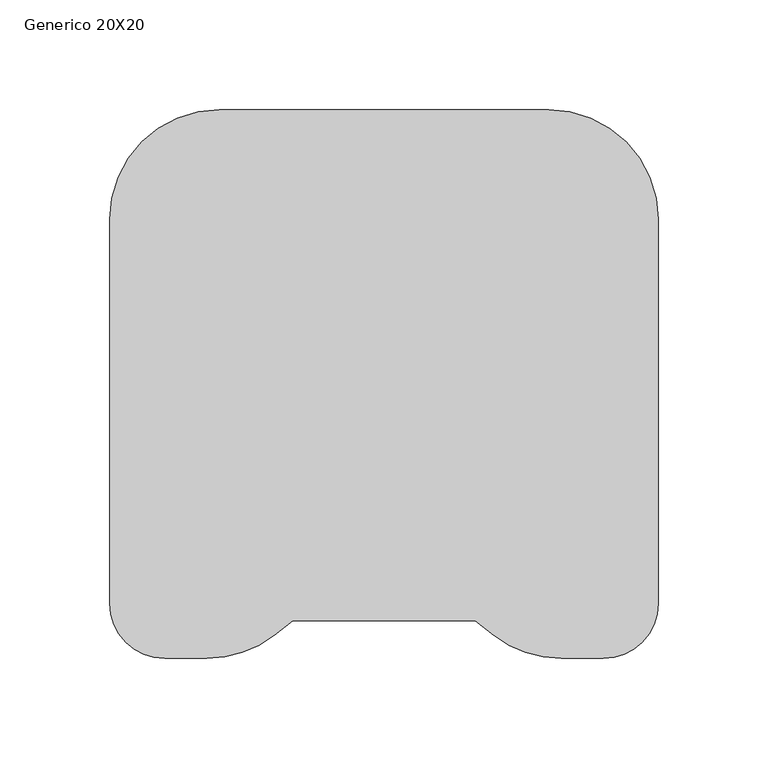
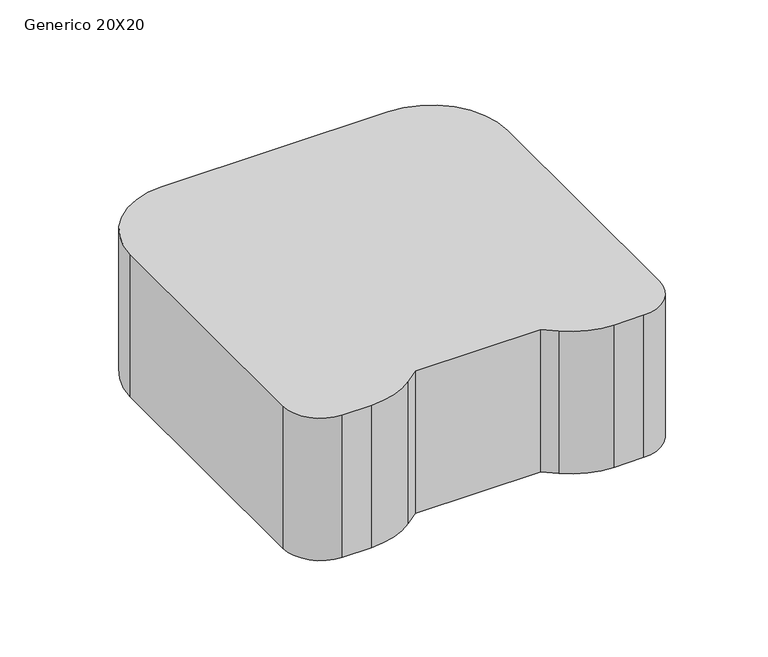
"""IFC4 building model written with IfcOpenShell, lengths in millimetres: furniture geometry, Secamanos : Generico 20X20."""

from ifc_helpers import new_model, si_unit, point, frame_2d, origin, origin_with_axes, place, context, project, spatial, polyline, circle_curve, trimmed, segment, composite_curve, outline, extrude, source, transform, mapped, element, save


def generico_20x20_ad66ac92(model_context):
    return source(origin(), model_context, "Body", "SweptSolid", [
        extrude(outline(composite_curve([segment(trimmed(circle_curve(frame_2d((75.0, 75.0)), 50.0), [point((75.0, 125.0))], [point((125.0, 75.0))], False, "CARTESIAN"), True, "CONTINUOUS"), segment(polyline([(125.0, 75.0), (125.0, -100.0)]), True, "CONTINUOUS"), segment(trimmed(circle_curve(frame_2d((100.0, -100.0)), 25.0), [point((125.0, -100.0))], [point((100.0, -125.0))], False, "CARTESIAN"), True, "CONTINUOUS"), segment(polyline([(100.0, -125.0), (80.716252, -125.0)]), True, "CONTINUOUS"), segment(trimmed(circle_curve(frame_2d((80.716252, -75.0)), 50.0), [point((80.716252, -125.0))], [point((50.0111459, -114.4613287))], False, "CARTESIAN"), True, "CONTINUOUS"), segment(polyline([(50.0111459, -114.4613287), (41.6666667, -107.9684373), (-41.6666667, -107.9684373), (-50.0111459, -114.4613287)]), True, "CONTINUOUS"), segment(trimmed(circle_curve(frame_2d((-80.716252, -75.0)), 50.0), [point((-50.0111459, -114.4613287))], [point((-80.716252, -125.0))], False, "CARTESIAN"), True, "CONTINUOUS"), segment(polyline([(-80.716252, -125.0), (-100.0, -125.0)]), True, "CONTINUOUS"), segment(trimmed(circle_curve(frame_2d((-100.0, -100.0)), 25.0), [point((-100.0, -125.0))], [point((-125.0, -100.0))], False, "CARTESIAN"), True, "CONTINUOUS"), segment(polyline([(-125.0, -100.0), (-125.0, 75.0)]), True, "CONTINUOUS"), segment(trimmed(circle_curve(frame_2d((-75.0, 75.0)), 50.0), [point((-125.0, 75.0))], [point((-75.0, 125.0))], False, "CARTESIAN"), True, "CONTINUOUS"), segment(polyline([(-75.0, 125.0), (75.0, 125.0)]), True, "CONTINUOUS")], self_intersect=False)), origin_with_axes(), (0.0, 0.0, 1.0), 100.0),
    ])


if __name__ == "__main__":
    model = new_model("IFC4")
    model_context = context("Model", 3, world=origin())
    ifc_project = project(units=[si_unit("LENGTHUNIT", "METRE", prefix="MILLI")], contexts=[model_context])
    site = spatial("IfcSite", under=ifc_project)
    building = spatial("IfcBuilding", under=site)
    placement = place(None, origin())
    generico_20x20_shape = generico_20x20_ad66ac92(model_context)
    element("IfcFurniture", 1, ObjectType="Secamanos : Generico 20X20", at=placement, inside=building, context=model_context, shape_type="MappedRepresentation", body=[
        mapped(generico_20x20_shape, transform((0.0, 0.0, 0.0), x_axis=(1.0, 0.0, 0.0), y_axis=(0.0, 1.0, 0.0), z_axis=(0.0, 0.0, 1.0))),
    ])
    save(model, "model.ifc")
